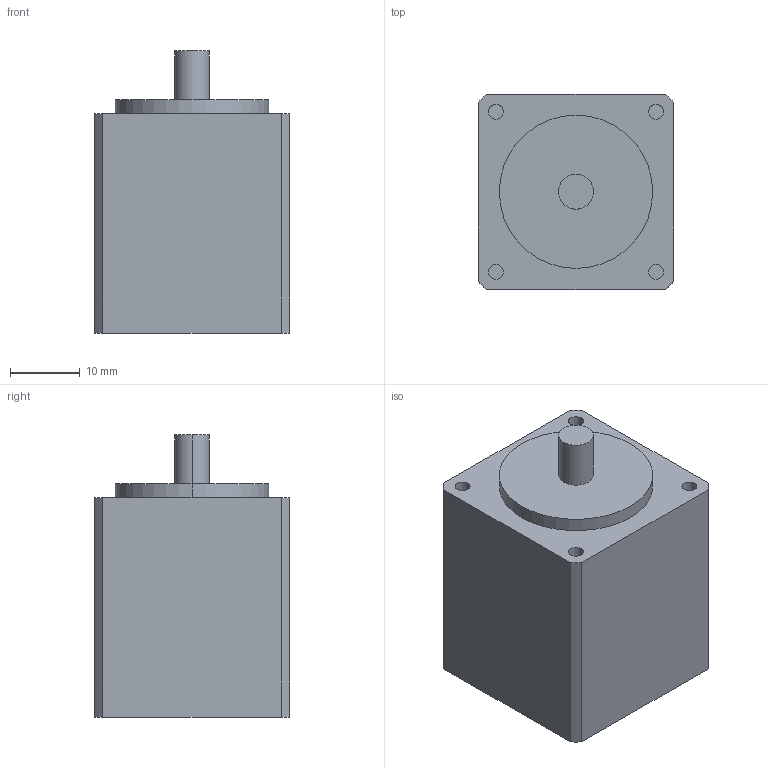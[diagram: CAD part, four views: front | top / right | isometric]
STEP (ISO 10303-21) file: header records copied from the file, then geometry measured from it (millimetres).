
FILE_DESCRIPTION (( 'STEP AP214' ), '1' );
FILE_NAME ('motore pamoco serie28.STEP', '2016-02-27T11:27:42', ( '' ), ( '' ), 'SwSTEP 2.0', 'SolidWorks 2012', '' );
FILE_SCHEMA (( 'AUTOMOTIVE_DESIGN' ));
Length unit declared in the file: millimetre
Products named in the file (1): motore pamoco serie28
Bounding box: 28 x 28 x 40.5 mm (x, y, z)
Volume: 25446.8 mm3; surface area: 5375.4 mm2
Topology: 1 solids, 1 shells, 28 faces, 60 edges, 40 vertices
Faces by surface type: cylinder 16, plane 12
Entity records: 810 total; most frequent: DIRECTION 150, CARTESIAN_POINT 129, ORIENTED_EDGE 120, AXIS2_PLACEMENT_3D 61, EDGE_CURVE 60, VERTEX_POINT 40, EDGE_LOOP 34, CIRCLE 32
